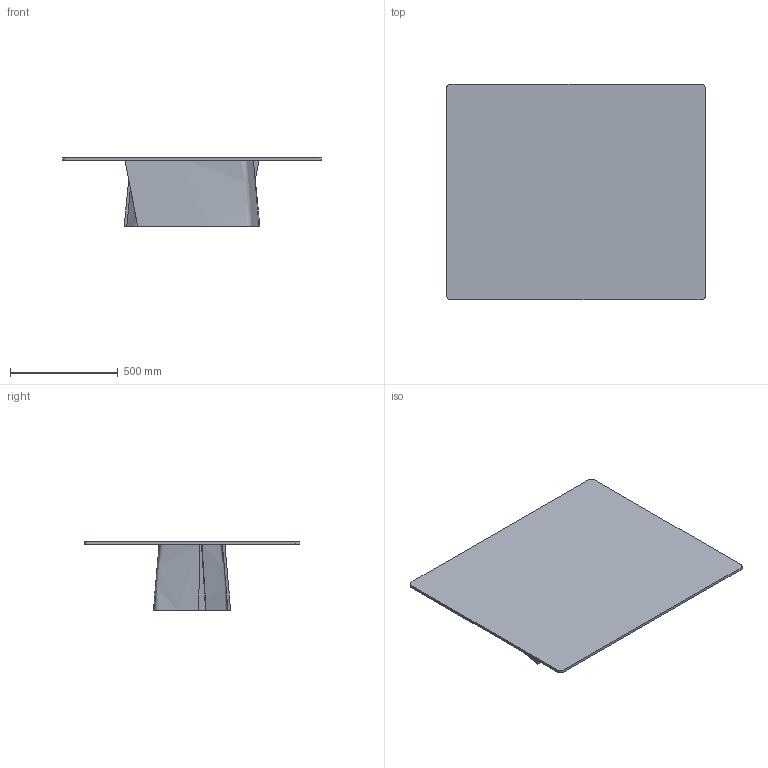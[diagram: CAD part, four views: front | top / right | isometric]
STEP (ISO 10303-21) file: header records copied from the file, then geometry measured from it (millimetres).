
FILE_DESCRIPTION(/* description */ (''),/* implementation_level */ '2;1');
FILE_NAME(/* name */ '500.401 - Accordo Tavolino rettangolare H32 120x100',/* time_stamp */ '2010-11-03T16:26:27+01:00',/* author */ (''),/* organization */ (''),/* preprocessor_version */ 'ST-DEVELOPER v10',/* originating_system */ '',/* authorisation */ '');
FILE_SCHEMA (('CONFIG_CONTROL_DESIGN'));
Length unit declared in the file: centimetre
Products named in the file (1): 1
Bounding box: 1200 x 1000 x 317 mm (x, y, z)
Volume: 17769294.6 mm3; surface area: 3326044.3 mm2
Topology: 3 solids, 3 shells, 18 faces, 36 edges, 24 vertices
Faces by surface type: bspline 12, plane 6
Entity records: 726 total; most frequent: CARTESIAN_POINT 424, ORIENTED_EDGE 72, EDGE_CURVE 36, VERTEX_POINT 24, ADVANCED_FACE 18, FACE_OUTER_BOUND 18, EDGE_LOOP 18, DIRECTION 10
